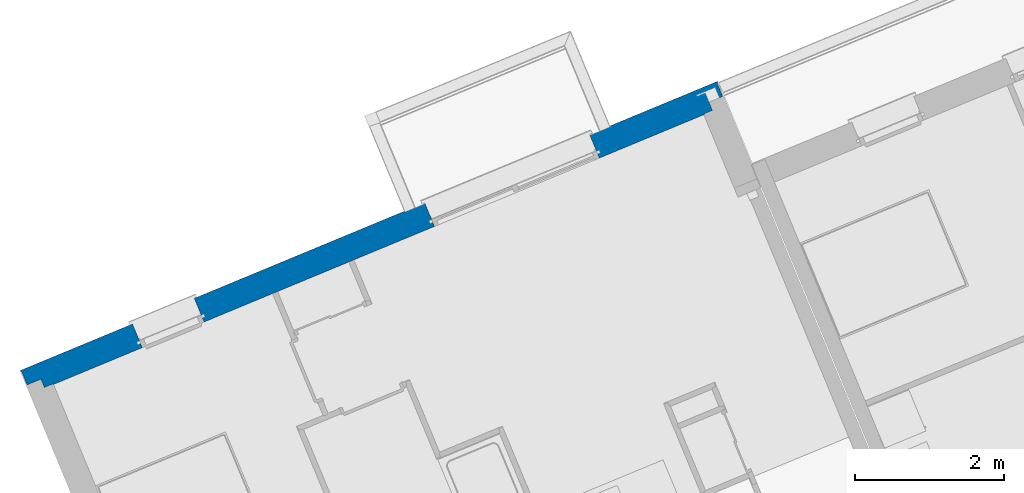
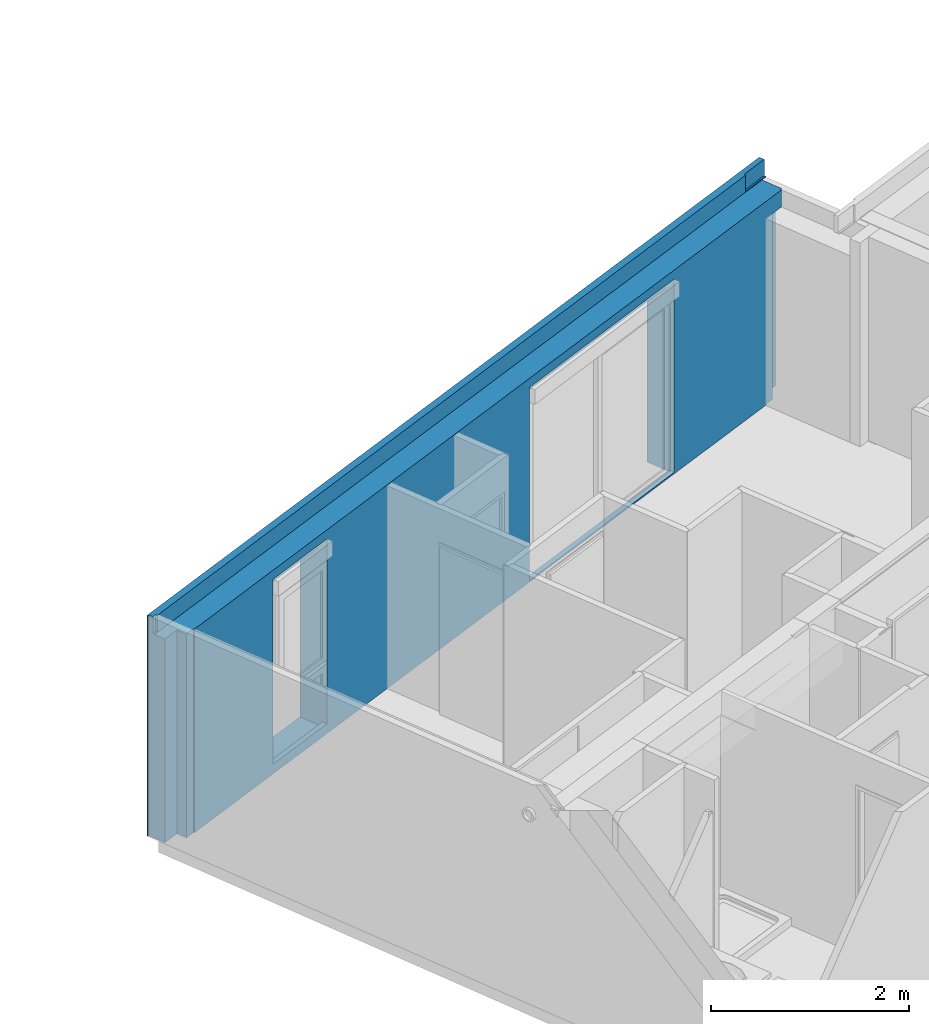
# One storey, part 11 of 90: 1 wall, 2 openings.
"""IFC2X3 building model written with IfcOpenShell, lengths in metres."""

from ifc_helpers import new_model, entity, si_unit, converted_unit, derived_unit, money_unit, direction, frame, origin_with_axes, place, context, subcontext, project, spatial, faceted_brep, material, material_list, type_object, element, save


model = new_model("IFC2X3")

# Units and contexts
model_context = context("Model", 3, precision=1e-05, world=origin_with_axes(), true_north=direction((0.0, 1.0)))
body_context = subcontext(model_context, "Body", "Model", "MODEL_VIEW")
ifc_project = project(units=[si_unit("LENGTHUNIT", "METRE"), si_unit("AREAUNIT", "SQUARE_METRE"), si_unit("VOLUMEUNIT", "CUBIC_METRE"), converted_unit("PLANEANGLEUNIT", "DEGREE", entity("IfcPlaneAngleMeasure", 0.0174532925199), si_unit("PLANEANGLEUNIT", "RADIAN"), dimensions=[0, 0, 0, 0, 0, 0, 0]), si_unit("SOLIDANGLEUNIT", "STERADIAN"), money_unit("EUR"), converted_unit("TIMEUNIT", "Year", entity("IfcTimeMeasure", 31556926.0), si_unit("TIMEUNIT", "SECOND"), dimensions=[0, 0, 1, 0, 0, 0, 0]), si_unit("MASSUNIT", "GRAM", prefix="KILO"), si_unit("THERMODYNAMICTEMPERATUREUNIT", "DEGREE_CELSIUS"), si_unit("LUMINOUSINTENSITYUNIT", "LUMEN"), si_unit("ENERGYUNIT", "JOULE", prefix="MEGA"), derived_unit("THERMALCONDUCTANCEUNIT", [(si_unit("POWERUNIT", "WATT"), 1), (si_unit("LENGTHUNIT", "METRE"), -1), (si_unit("THERMODYNAMICTEMPERATUREUNIT", "KELVIN"), -1)]), derived_unit("SPECIFICHEATCAPACITYUNIT", [(si_unit("ENERGYUNIT", "JOULE"), 1), (si_unit("MASSUNIT", "GRAM", prefix="KILO"), -1), (si_unit("THERMODYNAMICTEMPERATUREUNIT", "KELVIN"), -1)]), derived_unit("MASSDENSITYUNIT", [(si_unit("MASSUNIT", "GRAM", prefix="KILO"), 1), (si_unit("VOLUMEUNIT", "CUBIC_METRE"), -1)])], contexts=[model_context])

# Site, building, storey
site_placement = place(None, origin_with_axes())
site = spatial("IfcSite", under=ifc_project, at=site_placement, Name="Site", CompositionType="ELEMENT")
building_placement = place(site_placement, origin_with_axes())
building = spatial("IfcBuilding", under=site, at=building_placement, Name="Bâtiment", CompositionType="ELEMENT")
storey_placement = place(building_placement, frame((0.0, 0.0, 2.72), z_axis=(0.0, 0.0, 1.0), x_axis=(1.0, 0.0, 0.0)))
storey = spatial("IfcBuildingStorey", under=building, at=storey_placement, Name="R+1", CompositionType="ELEMENT", Elevation=2.72)

# Wall, openings
ifc_material_1 = material(Name="Finition ext - Crépis")
ifc_material_2 = material(Name="Béton cellulaire")
ifc_material_3 = material(Name="Mortier")
ifc_material_4 = material(Name="Isolation - Polystyrène expansé")
ifc_material_5 = material(Name="Bloc ELITHERM")
ifc_material_6 = material(Name="Isolation - Polystyrène extrudé")
ifc_material_7 = material(Name="Finition int - Plaque de plâtre")
ifc_material_list = material_list([ifc_material_1, ifc_material_2, ifc_material_3, ifc_material_4, ifc_material_5, ifc_material_6, ifc_material_7])
wall_type = type_object("IfcWallType", Name="Mur ALKERN + planelle 21 345 x 2720", PredefinedType="USERDEFINED")
wall_placement = place(storey_placement, frame((-35.4006367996, -17.9386027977, 0.0), z_axis=(0.0, 0.0, 1.0), x_axis=(0.923701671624, 0.383112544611, 0.0)))
wall = element("IfcWall", 1, at=wall_placement, inside=storey, type_object=wall_type, material=ifc_material_list, Name="Mue bloc ALKERN isolé", ObjectType="SOLIDWALL", context=body_context, shape_type="Brep", body=[
    faceted_brep([(8.2924334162, -0.0150000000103, 0.02), (8.2924334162, -0.0150000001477, 0.0), (8.43243341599, -0.0150000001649, 0.0), (8.43243341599, -0.0150000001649, 0.01), (8.44241394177, -0.0150000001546, 0.0206237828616), (8.5824528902, -0.0150000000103, 0.0293762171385), (8.59243341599, -0.015, 0.02), (8.59243341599, -0.015, 0.0), (10.1580165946, -0.0149999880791, 0.0), (10.1580166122, -0.0149999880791, 2.29999999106), (10.0750166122, -0.0149999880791, 2.3), (10.0750166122, -0.0149999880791, 2.31), (10.0950166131, -0.0149999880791, 2.30999999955), (10.0950166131, -0.0149999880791, 2.51000000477), (10.1580166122, -0.0149999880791, 2.51000000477), (10.1580166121, -0.0149999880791, 2.71999999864), (1.19217489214e-08, -0.0149999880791, 2.72), (1.19217560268e-08, -0.0149999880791, 0.0), (5.59243341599, -0.015, 0.0), (5.59243341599, -0.015, 0.01), (5.60241394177, -0.0149999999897, 0.0193762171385), (5.7424528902, -0.0149999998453, 0.0106237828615), (5.75243341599, -0.014999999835, 0.0), (5.8924334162, -0.0149999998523, 0.0), (5.8924334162, -0.0150000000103, 0.02), (5.8924334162, -0.0150000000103, 2.22), (8.2924334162, -0.0150000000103, 2.22), (1.63752676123, -0.0149999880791, 0.06), (1.63752676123, -0.0149999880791, 0.12), (1.63752676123, -0.0149999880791, 2.22), (2.53752676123, -0.0149999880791, 2.22), (2.53752676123, -0.0149999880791, 0.12), (2.53752676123, -0.0149999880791, 0.06), (8.2924334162, 0.0, 0.02), (8.2924334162, 0.0, 0.0), (8.43243341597, 0.0, 0.0), (8.43243341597, 0.0, 0.01), (8.44241394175, 0.0, 0.0206237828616), (8.58245289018, 0.0, 0.0293762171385), (8.59243341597, 0.0, 0.02), (8.59243341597, 0.0, 0.0), (10.1580165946, 0.0, 0.0), (10.1580166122, -5.25637311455e-09, 2.29999999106), (10.0750166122, -5.25637311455e-09, 2.3), (10.0750166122, -5.25637311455e-09, 2.31), (10.0950166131, -5.25637489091e-09, 2.30999999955), (10.0950166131, -5.25637489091e-09, 2.51000000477), (10.1580166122, -5.25637311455e-09, 2.51000000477), (10.1580166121, 0.0, 2.71999999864), (1.19209531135e-08, 0.0, 2.72), (1.19209531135e-08, 0.0, 0.0), (5.59243341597, 0.0, 0.0), (5.59243341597, 0.0, 0.01), (5.60241394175, 0.0, 0.0193762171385), (5.74245289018, 0.0, 0.0106237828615), (5.75243341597, 0.0, 0.0), (5.8924334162, 0.0, 0.0), (5.8924334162, 0.0, 0.02), (5.8924334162, 0.0, 2.22), (8.2924334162, 0.0, 2.22), (1.63752676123, 0.0, 0.06), (1.63752676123, -5.25637666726e-09, 0.12), (1.63752676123, -5.25637666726e-09, 2.22), (2.53752676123, -5.25637489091e-09, 2.22), (2.53752676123, -5.25637489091e-09, 0.12), (2.53752676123, 0.0, 0.06)], [[[0, 1, 2, 3, 4, 5, 6, 7, 8, 9, 10, 11, 12, 13, 14, 15, 16, 17, 18, 19, 20, 21, 22, 23, 24, 25, 26], [27, 28, 29, 30, 31, 32]], [[1, 0, 33, 34]], [[1, 34, 35, 2]], [[36, 3, 2, 35]], [[37, 4, 3, 36]], [[38, 5, 4, 37]], [[39, 6, 5, 38]], [[40, 7, 6, 39]], [[8, 7, 40, 41]], [[41, 42, 9, 8]], [[42, 43, 10, 9]], [[44, 11, 10, 43]], [[44, 45, 12, 11]], [[46, 13, 12, 45]], [[14, 13, 46, 47]], [[15, 14, 47, 48]], [[15, 48, 49, 16]], [[49, 50, 17, 16]], [[50, 51, 18, 17]], [[52, 19, 18, 51]], [[53, 20, 19, 52]], [[54, 21, 20, 53]], [[54, 55, 22, 21]], [[56, 23, 22, 55]], [[57, 24, 23, 56]], [[24, 57, 58, 25]], [[25, 58, 59, 26]], [[33, 0, 26, 59]], [[27, 60, 61, 28]], [[62, 29, 28, 61]], [[63, 30, 29, 62]], [[30, 63, 64, 31]], [[64, 65, 32, 31]], [[65, 60, 27, 32]], [[34, 33, 59, 58, 57, 56, 55, 54, 53, 52, 51, 50, 49, 48, 47, 46, 45, 44, 43, 42, 41, 40, 39, 38, 37, 36, 35], [65, 64, 63, 62, 61, 60]]]),
    faceted_brep([(0.0149999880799, -0.015, 2.72), (0.0149999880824, -0.0629999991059, 2.72), (10.1580166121, -0.0629999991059, 2.71999999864), (10.1580166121, -0.015, 2.71999999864), (0.0149999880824, -0.0629999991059, 2.51999999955), (0.0149999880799, -0.015, 2.51999999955), (10.1580166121, -0.0629999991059, 2.51999999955), (10.1580166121, -0.015, 2.51999999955)], [[[0, 1, 2, 3]], [[4, 1, 0, 5]], [[1, 4, 6, 2]], [[7, 3, 2, 6]], [[5, 0, 3, 7]], [[4, 5, 7, 6]]]),
    faceted_brep([(0.0149999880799, -0.015, 2.51999999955), (0.0149999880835, -0.083, 2.51999999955), (10.1580166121, -0.083, 2.52), (10.1580166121, -0.015, 2.52), (0.0149999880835, -0.083, 2.50999999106), (0.0149999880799, -0.015, 2.50999999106), (10.1580166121, -0.083, 2.51), (10.1580166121, -0.015, 2.51)], [[[0, 1, 2, 3]], [[4, 1, 0, 5]], [[1, 4, 6, 2]], [[7, 3, 2, 6]], [[5, 0, 3, 7]], [[4, 5, 7, 6]]]),
    faceted_brep([(9.82301659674, -0.0630000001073, 2.72), (0.0629999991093, -0.0630000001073, 2.72), (0.0629999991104, -0.083000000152, 2.72), (9.82301659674, -0.083000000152, 2.72), (9.82301659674, -0.0630000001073, 2.51999999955), (0.0629999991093, -0.0630000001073, 2.51999999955), (0.0629999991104, -0.083000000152, 2.51999999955), (9.82301659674, -0.083000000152, 2.51999999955)], [[[0, 1, 2, 3]], [[4, 5, 1, 0]], [[5, 6, 2, 1]], [[3, 2, 6, 7]], [[4, 0, 3, 7]], [[7, 6, 5, 4]]]),
    faceted_brep([(8.2924334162, -0.214999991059, 0.02), (8.2924334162, -0.214999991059, 0.0), (10.1430166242, -0.214999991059, 0.0), (10.1430166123, -0.214999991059, 2.3), (10.0750166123, -0.214999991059, 2.3), (10.0750166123, -0.214999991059, 2.31), (10.0950166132, -0.214999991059, 2.30999999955), (10.0950166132, -0.214999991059, 2.51000000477), (0.0149999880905, -0.214999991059, 2.50999999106), (0.0149999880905, -0.214999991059, 0.0), (5.8924334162, -0.214999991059, 0.0), (5.8924334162, -0.214999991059, 0.02), (5.8924334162, -0.214999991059, 2.22), (8.2924334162, -0.214999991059, 2.22), (1.63752676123, -0.214999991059, 0.06), (1.63752676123, -0.214999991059, 0.12), (1.63752676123, -0.214999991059, 2.22), (2.53752676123, -0.214999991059, 2.22), (2.53752676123, -0.214999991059, 0.12), (2.53752676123, -0.214999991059, 0.06), (8.2924334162, -0.015, 0.02), (8.2924334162, -0.015, 0.0), (8.2924334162, -0.015, 2.22), (10.1430166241, -0.015, 0.0), (10.1430166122, -0.015, 2.3), (10.0750166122, -0.015, 2.3), (10.0750166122, -0.015, 2.31), (10.0950166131, -0.015, 2.30999999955), (10.0950166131, -0.015, 2.51000000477), (10.0950166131, -0.0829999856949, 2.51000000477), (0.0149999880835, -0.0829999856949, 2.50999999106), (0.0149999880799, -0.015, 2.50999999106), (0.0149999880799, -0.015, 0.0), (5.8924334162, -0.015, 0.0), (5.8924334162, -0.015, 0.02), (5.8924334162, -0.015, 2.22), (1.63752676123, -0.015, 0.06), (1.63752676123, -0.015, 0.12), (1.63752676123, -0.015, 2.22), (2.53752676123, -0.015, 2.22), (2.53752676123, -0.015, 0.12), (2.53752676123, -0.015, 0.06)], [[[0, 1, 2, 3, 4, 5, 6, 7, 8, 9, 10, 11, 12, 13], [14, 15, 16, 17, 18, 19]], [[20, 21, 1, 0, 13, 22]], [[1, 21, 23, 2]], [[24, 3, 2, 23]], [[4, 3, 24, 25]], [[5, 4, 25, 26]], [[27, 6, 5, 26]], [[27, 28, 29, 7, 6]], [[7, 29, 30, 8]], [[31, 32, 9, 8, 30]], [[33, 10, 9, 32]], [[11, 10, 33, 34, 35, 12]], [[12, 35, 22, 13]], [[15, 14, 36, 37, 38, 16]], [[39, 17, 16, 38]], [[40, 41, 19, 18, 17, 39]], [[41, 36, 14, 19]], [[21, 20, 22, 35, 34, 33, 32, 31, 28, 27, 26, 25, 24, 23], [41, 40, 39, 38, 37, 36]], [[29, 28, 31, 30]]]),
    faceted_brep([(8.2924334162, -0.215000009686, 0.02), (8.2924334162, -0.215000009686, 0.0), (8.2924334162, -0.286, 0.0), (8.2924334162, -0.286, 0.02), (8.2924334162, -0.335000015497, 0.02), (8.2924334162, -0.335000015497, 2.22), (8.2924334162, -0.335000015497, 2.4), (8.2924334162, -0.215, 2.4), (8.2924334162, -0.215, 2.22), (5.8924334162, -0.215, 2.4), (5.8924334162, -0.215, 2.22), (5.8924334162, -0.215000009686, 0.02), (5.8924334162, -0.215000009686, 0.0), (0.214999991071, -0.215000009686, 0.0), (0.214999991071, -0.215000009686, 2.50999999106), (10.0950166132, -0.215000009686, 2.51000000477), (10.0950166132, -0.215000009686, 2.30999999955), (10.0750166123, -0.215000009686, 2.31), (10.0750166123, -0.215000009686, 2.3), (9.94301662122, -0.215000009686, 2.29999999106), (9.94301662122, -0.215000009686, 0.0), (1.63752676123, -0.215, 2.4), (1.63752676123, -0.215, 2.22), (1.63752676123, -0.215000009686, 0.12), (1.63752676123, -0.215000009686, 0.06), (2.53752676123, -0.215000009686, 0.06), (2.53752676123, -0.215000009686, 0.12), (2.53752676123, -0.215, 2.22), (2.53752676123, -0.215, 2.4), (9.94301662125, -0.335000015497, 0.0), (0.214999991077, -0.335000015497, 0.0), (5.8924334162, -0.286, 0.0), (5.8924334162, -0.286, 0.02), (5.8924334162, -0.335000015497, 0.02), (10.0750166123, -0.335000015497, 2.31), (10.0950166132, -0.335000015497, 2.30999999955), (10.0950166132, -0.335000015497, 2.51000000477), (0.214999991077, -0.335000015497, 2.50999999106), (9.94301662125, -0.335000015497, 2.29999999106), (10.0750166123, -0.335000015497, 2.3), (2.53752676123, -0.335000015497, 2.22), (2.53752676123, -0.335000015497, 0.12), (1.63752676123, -0.335000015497, 0.12), (1.63752676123, -0.335000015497, 2.22), (1.63752676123, -0.335000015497, 2.4), (2.53752676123, -0.335000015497, 2.4), (5.8924334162, -0.335000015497, 2.22), (5.8924334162, -0.335000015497, 2.4), (1.63752676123, -0.286, 0.12), (1.63752676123, -0.286, 0.06), (2.53752676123, -0.286, 0.06), (2.53752676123, -0.286, 0.12)], [[[0, 1, 2, 3, 4, 5, 6, 7, 8]], [[1, 0, 8, 7, 9, 10, 11, 12, 13, 14, 15, 16, 17, 18, 19, 20], [21, 22, 23, 24, 25, 26, 27, 28]], [[2, 1, 20, 29, 30, 13, 12, 31]], [[32, 3, 2, 31]], [[3, 32, 33, 4]], [[34, 35, 36, 37, 30, 29, 38, 39], [40, 41, 42, 43, 44, 45], [5, 4, 33, 46, 47, 6]], [[47, 9, 7, 6]], [[32, 31, 12, 11, 10, 9, 47, 46, 33]], [[13, 30, 37, 14]], [[37, 36, 15, 14]], [[16, 15, 36, 35]], [[17, 16, 35, 34]], [[17, 34, 39, 18]], [[19, 18, 39, 38]], [[19, 38, 29, 20]], [[44, 43, 42, 48, 49, 24, 23, 22, 21]], [[25, 24, 49, 50]], [[45, 28, 27, 26, 25, 50, 51, 41, 40]], [[44, 21, 28, 45]], [[51, 48, 42, 41]], [[48, 51, 50, 49]]]),
    faceted_brep([(0.335000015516, -0.34499998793, 2.51), (0.335000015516, -0.34499998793, 0.0), (9.82301659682, -0.34499998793, 7.13450631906e-10), (9.82301659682, -0.34499998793, 2.3), (9.94301660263, -0.34499998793, 2.3), (10.0750166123, -0.34499998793, 2.3), (10.0750166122, -0.34499998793, 2.51000000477), (1.63752676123, -0.34499998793, 2.22), (1.63752676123, -0.34499998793, 2.4), (2.53752676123, -0.34499998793, 2.4), (2.53752676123, -0.34499998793, 2.22), (2.53752676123, -0.34499998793, 0.12), (1.63752676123, -0.34499998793, 0.12), (5.8924334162, -0.34499998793, 2.22), (5.8924334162, -0.34499998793, 2.4), (8.2924334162, -0.34499998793, 2.4), (8.2924334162, -0.34499998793, 2.22), (8.2924334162, -0.34499998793, 0.02), (5.8924334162, -0.34499998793, 0.02), (0.335000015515, -0.335000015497, 0.0), (0.335000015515, -0.335000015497, 2.51), (9.82301659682, -0.335000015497, 7.19396098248e-10), (9.82301659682, -0.335000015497, 2.3), (9.94301660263, -0.335000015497, 2.3), (10.0750166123, -0.335000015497, 2.3), (10.0750166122, -0.335000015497, 2.51000000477), (1.63752676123, -0.335000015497, 2.22), (1.63752676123, -0.335000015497, 2.4), (1.63752676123, -0.335000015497, 0.12), (2.53752676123, -0.335000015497, 2.4), (2.53752676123, -0.335000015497, 2.22), (2.53752676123, -0.335000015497, 0.12), (5.8924334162, -0.335000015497, 2.22), (5.8924334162, -0.335000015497, 2.4), (5.8924334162, -0.335000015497, 0.02), (8.2924334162, -0.335000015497, 2.4), (8.2924334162, -0.335000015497, 2.22), (8.2924334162, -0.335000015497, 0.02)], [[[0, 1, 2, 3, 4, 5, 6], [7, 8, 9, 10, 11, 12], [13, 14, 15, 16, 17, 18]], [[19, 1, 0, 20]], [[19, 21, 2, 1]], [[22, 3, 2, 21]], [[22, 23, 4, 3]], [[23, 24, 5, 4]], [[24, 25, 6, 5]], [[0, 6, 25, 20]], [[26, 27, 8, 7, 12, 28]], [[27, 29, 9, 8]], [[10, 9, 29, 30, 31, 11]], [[28, 12, 11, 31]], [[32, 33, 14, 13, 18, 34]], [[15, 14, 33, 35]], [[16, 15, 35, 36, 37, 17]], [[17, 37, 34, 18]], [[24, 23, 22, 21, 19, 20, 25], [27, 26, 28, 31, 30, 29], [33, 32, 34, 37, 36, 35]]]),
])
opening_1_placement = place(wall_placement, frame((2.08752676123, 0.0, 0.12), z_axis=(0.0, 0.0, 1.0), x_axis=(1.0, 0.0, 0.0)))
element("IfcOpeningElement", 2, at=opening_1_placement, cuts=wall, Name="MEN 53", context=body_context, shape_type="Brep", body=[
    faceted_brep([(-0.45, -0.245, 0.0), (0.45, -0.245, 0.0), (0.45, -0.83499998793, 0.0), (-0.45, -0.83499998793, 0.0), (-0.45, -0.245, 2.1), (0.45, -0.245, 2.1), (0.45, -0.83499998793, 2.1), (-0.45, -0.83499998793, 2.1)], [[[0, 1, 2, 3]], [[0, 4, 5, 1]], [[1, 5, 6, 2]], [[3, 2, 6, 7]], [[4, 0, 3, 7]], [[5, 4, 7, 6]]]),
    faceted_brep([(-0.45, -0.245, 0.0), (-0.45, -0.245, 2.1), (-0.45, 0.34499998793, 2.1), (-0.45, 0.34499998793, 0.0), (0.45, -0.245, 0.0), (0.45, -0.245, 2.1), (0.45, 0.34499998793, 2.1), (0.45, 0.34499998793, 0.0)], [[[0, 1, 2, 3]], [[0, 4, 5, 1]], [[1, 5, 6, 2]], [[3, 2, 6, 7]], [[4, 0, 3, 7]], [[5, 4, 7, 6]]]),
    faceted_brep([(-0.45, -0.245, 0.0), (-0.45, -0.245, 2.1), (-0.45, 0.34499998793, 2.1), (-0.45, 0.34499998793, 0.0), (0.45, -0.245, 0.0), (0.45, -0.245, 2.1), (0.45, 0.34499998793, 2.1), (0.45, 0.34499998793, 0.0)], [[[0, 1, 2, 3]], [[0, 4, 5, 1]], [[1, 5, 6, 2]], [[3, 2, 6, 7]], [[4, 0, 3, 7]], [[5, 4, 7, 6]]]),
    faceted_brep([(-0.45, -0.215, 2.1), (0.45, -0.215, 2.1), (0.45, -0.80499998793, 2.1), (-0.45, -0.80499998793, 2.1), (-0.45, -0.215, 2.28), (0.45, -0.215, 2.28), (0.45, -0.80499998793, 2.28), (-0.45, -0.80499998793, 2.28)], [[[0, 1, 2, 3]], [[0, 4, 5, 1]], [[1, 5, 6, 2]], [[3, 2, 6, 7]], [[4, 0, 3, 7]], [[5, 4, 7, 6]]]),
    faceted_brep([(-0.45, -0.286, 0.0), (0.45, -0.286, 0.0), (0.45, 0.30399998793, 0.0), (-0.45, 0.30399998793, 0.0), (-0.45, -0.286, -0.06), (0.45, -0.286, -0.06), (0.45, 0.30399998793, -0.06), (-0.45, 0.30399998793, -0.06)], [[[0, 1, 2, 3]], [[0, 4, 5, 1]], [[1, 5, 6, 2]], [[3, 2, 6, 7]], [[4, 0, 3, 7]], [[5, 4, 7, 6]]]),
])
opening_2_placement = place(wall_placement, frame((7.0924334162, 0.0, 0.02), z_axis=(0.0, 0.0, 1.0), x_axis=(1.0, 0.0, 0.0)))
element("IfcOpeningElement", 3, at=opening_2_placement, cuts=wall, Name="MEN 52", context=body_context, shape_type="Brep", body=[
    faceted_brep([(-1.2, -0.245, 0.0), (1.2, -0.245, 0.0), (1.2, -0.83499998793, 0.0), (-1.2, -0.83499998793, 0.0), (-1.2, -0.245, 2.2), (1.2, -0.245, 2.2), (1.2, -0.83499998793, 2.2), (-1.2, -0.83499998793, 2.2)], [[[0, 1, 2, 3]], [[0, 4, 5, 1]], [[1, 5, 6, 2]], [[3, 2, 6, 7]], [[4, 0, 3, 7]], [[5, 4, 7, 6]]]),
    faceted_brep([(-1.2, -0.245, 0.0), (-1.2, -0.245, 2.2), (-1.2, 0.34499998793, 2.2), (-1.2, 0.34499998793, 0.0), (1.2, -0.245, 0.0), (1.2, -0.245, 2.2), (1.2, 0.34499998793, 2.2), (1.2, 0.34499998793, 0.0)], [[[0, 1, 2, 3]], [[0, 4, 5, 1]], [[1, 5, 6, 2]], [[3, 2, 6, 7]], [[4, 0, 3, 7]], [[5, 4, 7, 6]]]),
    faceted_brep([(-1.2, -0.245, 0.0), (-1.2, -0.245, 2.2), (-1.2, 0.34499998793, 2.2), (-1.2, 0.34499998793, 0.0), (1.2, -0.245, 0.0), (1.2, -0.245, 2.2), (1.2, 0.34499998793, 2.2), (1.2, 0.34499998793, 0.0)], [[[0, 1, 2, 3]], [[0, 4, 5, 1]], [[1, 5, 6, 2]], [[3, 2, 6, 7]], [[4, 0, 3, 7]], [[5, 4, 7, 6]]]),
    faceted_brep([(-1.2, -0.215, 2.2), (1.2, -0.215, 2.2), (1.2, -0.80499998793, 2.2), (-1.2, -0.80499998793, 2.2), (-1.2, -0.215, 2.38), (1.2, -0.215, 2.38), (1.2, -0.80499998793, 2.38), (-1.2, -0.80499998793, 2.38)], [[[0, 1, 2, 3]], [[0, 4, 5, 1]], [[1, 5, 6, 2]], [[3, 2, 6, 7]], [[4, 0, 3, 7]], [[5, 4, 7, 6]]]),
    faceted_brep([(-1.2, -0.286, 0.0), (1.2, -0.286, 0.0), (1.2, 0.30399998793, 0.0), (-1.2, 0.30399998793, 0.0), (-1.2, -0.286, -0.06), (1.2, -0.286, -0.06), (1.2, 0.30399998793, -0.06), (-1.2, 0.30399998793, -0.06)], [[[0, 1, 2, 3]], [[0, 4, 5, 1]], [[1, 5, 6, 2]], [[3, 2, 6, 7]], [[4, 0, 3, 7]], [[5, 4, 7, 6]]]),
])

save(model, "model.ifc")
